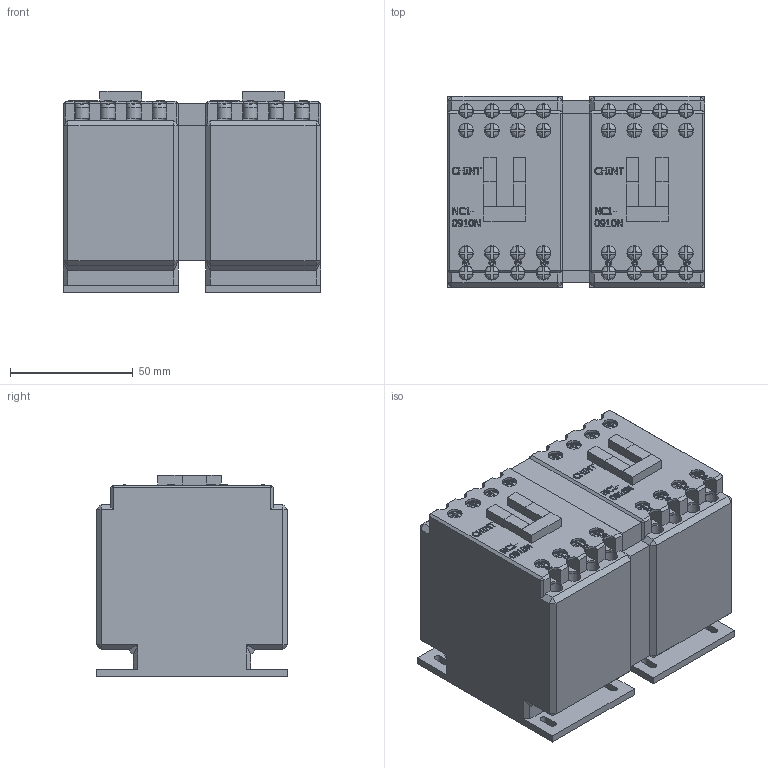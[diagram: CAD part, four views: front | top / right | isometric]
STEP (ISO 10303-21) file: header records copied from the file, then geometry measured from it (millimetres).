
FILE_DESCRIPTION(/* description */ (''),/* implementation_level */ '2;1');
FILE_NAME(/* name */ 'D:\CHINT2\NC1-N\NC1-0901N 230В 50Гц.stp',/* time_stamp */ '2017-11-12T20:32:25+03:00',/* author */ ('RSagdiev'),/* organization */ (''),/* preprocessor_version */ 'ST-DEVELOPER v16.5',/* originating_system */ 'Autodesk Inventor 2017',/* authorisation */ '');
FILE_SCHEMA (('AUTOMOTIVE_DESIGN { 1 0 10303 214 3 1 1 }'));
Products named in the file (1): NC1-0901N 230В 50Гц
Bounding box: 105 x 78 x 82 mm (x, y, z)
Volume: 582809.9 mm3; surface area: 62253.1 mm2
Topology: 37 solids, 37 shells, 1748 faces, 4538 edges, 2944 vertices
Faces by surface type: plane 1302, bspline 350, cylinder 96
Full cylindrical faces by diameter (mm): 5.8 x16, 6 x32
Entity records: 57259 total; most frequent: CARTESIAN_POINT 16935, ORIENTED_EDGE 8976, DIRECTION 6960, EDGE_CURVE 4488, LINE 2982, VECTOR 2982, VERTEX_POINT 2942, AXIS2_PLACEMENT_3D 1989
